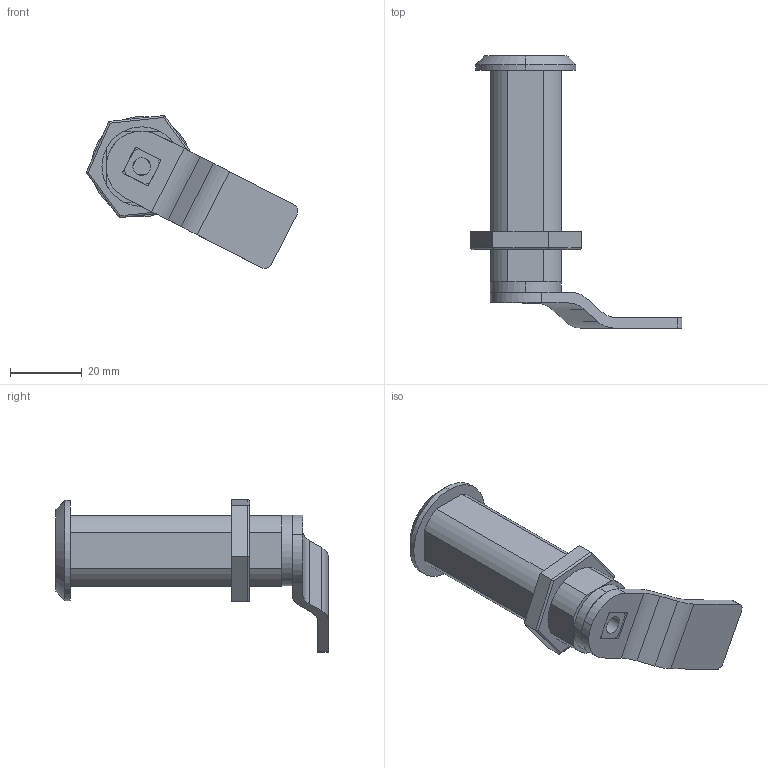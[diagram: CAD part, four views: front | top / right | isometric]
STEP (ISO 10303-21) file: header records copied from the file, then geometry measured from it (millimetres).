
FILE_DESCRIPTION (( 'STEP AP214' ), '1' );
FILE_NAME ('1.4024 Yksikielinen lukko 45 RST.STEP', '2026-03-10T12:42:58', ( '' ), ( '' ), 'SwSTEP 2.0', 'SolidWorks 2025', '' );
FILE_SCHEMA (( 'AUTOMOTIVE_DESIGN' ));
Length unit declared in the file: millimetre
Products named in the file (1): 1.4024 Yksikielinen lukko 45 RST
Bounding box: 59.03 x 75.9 x 42.66 mm (x, y, z)
Surface area: 10281 mm2 (no closed solid volume)
Topology: 0 solids, 5 shells, 73 faces, 206 edges, 139 vertices
Faces by surface type: plane 36, cylinder 35, cone 2
Entity records: 3159 total; most frequent: CARTESIAN_POINT 446, DIRECTION 414, ORIENTED_EDGE 375, EDGE_CURVE 206, AXIS2_PLACEMENT_3D 143, VERTEX_POINT 139, VECTOR 128, LINE 128
